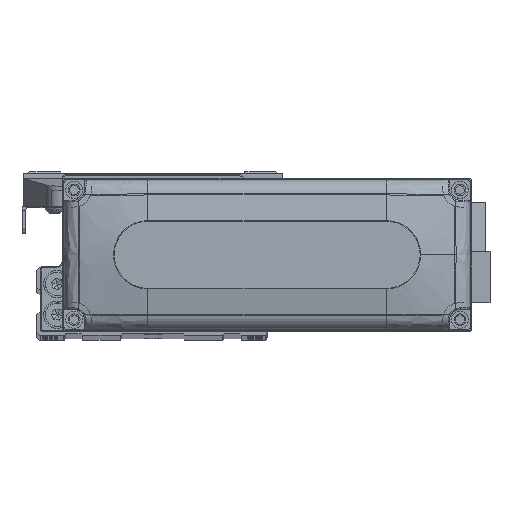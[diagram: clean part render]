
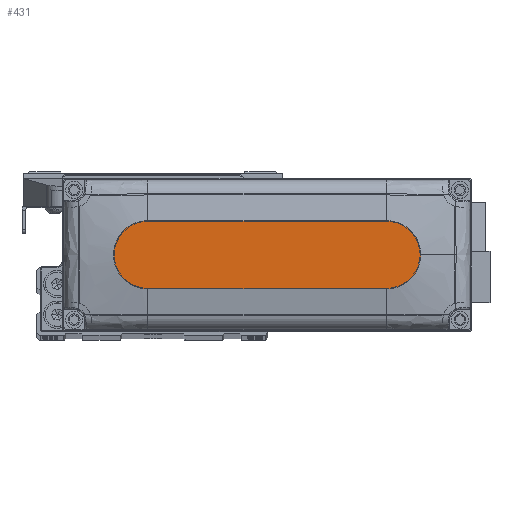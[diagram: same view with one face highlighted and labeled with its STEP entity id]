
A CAD part, top view. The second image highlights one B-rep face of the part: STEP entity #431.
In plain terms, the highlighted planar face has unit normal (0, 0, 1).
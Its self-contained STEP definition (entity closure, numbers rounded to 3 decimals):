
#431 = ADVANCED_FACE ( 'NONE', ( #11150 ), #25464, .T. ) ;
#1543 = EDGE_CURVE ( 'NONE', #21581, #30172, #6209, .T. ) ;
#1549 = AXIS2_PLACEMENT_3D ( 'NONE', #14911, #29242, #43549 ) ;
#2999 = VERTEX_POINT ( 'NONE', #36889 ) ;
#4117 = CIRCLE ( 'NONE', #30386, 10. ) ;
#6209 = CIRCLE ( 'NONE', #32441, 10. ) ;
#7633 = DIRECTION ( 'NONE',  ( 0., 0., 1. ) ) ;
#8557 = CARTESIAN_POINT ( 'NONE',  ( -35., -10., 28. ) ) ;
#9118 = AXIS2_PLACEMENT_3D ( 'NONE', #39778, #7633, #21953 ) ;
#9145 = DIRECTION ( 'NONE',  ( 0., 0., 1. ) ) ;
#9793 = VECTOR ( 'NONE', #11163, 1000. ) ;
#9828 = ORIENTED_EDGE ( 'NONE', *, *, #1543, .T. ) ;
#11150 = FACE_OUTER_BOUND ( 'NONE', #43593, .T. ) ;
#11163 = DIRECTION ( 'NONE',  ( -1., 0., 0. ) ) ;
#11703 = EDGE_CURVE ( 'NONE', #30172, #30401, #29011, .T. ) ;
#11739 = EDGE_CURVE ( 'NONE', #30401, #32574, #21776, .T. ) ;
#14911 = CARTESIAN_POINT ( 'NONE',  ( -35., 0., 28. ) ) ;
#17005 = ORIENTED_EDGE ( 'NONE', *, *, #11703, .T. ) ;
#17364 = CARTESIAN_POINT ( 'NONE',  ( 35., 0., 28. ) ) ;
#17519 = CARTESIAN_POINT ( 'NONE',  ( -35., 10., 28. ) ) ;
#21581 = VERTEX_POINT ( 'NONE', #27673 ) ;
#21776 = CIRCLE ( 'NONE', #1549, 10. ) ;
#21953 = DIRECTION ( 'NONE',  ( 1., 0., 0. ) ) ;
#22874 = DIRECTION ( 'NONE',  ( 1., 0., 0. ) ) ;
#23476 = DIRECTION ( 'NONE',  ( 1., 0., 0. ) ) ;
#25464 = PLANE ( 'NONE',  #9118 ) ;
#26125 = ORIENTED_EDGE ( 'NONE', *, *, #36631, .T. ) ;
#27673 = CARTESIAN_POINT ( 'NONE',  ( 45., 0., 28. ) ) ;
#29011 = LINE ( 'NONE', #43318, #9793 ) ;
#29242 = DIRECTION ( 'NONE',  ( 0., 0., 1. ) ) ;
#30172 = VERTEX_POINT ( 'NONE', #40786 ) ;
#30386 = AXIS2_PLACEMENT_3D ( 'NONE', #17364, #31717, #46016 ) ;
#30401 = VERTEX_POINT ( 'NONE', #17519 ) ;
#31717 = DIRECTION ( 'NONE',  ( 0., 0., 1. ) ) ;
#32441 = AXIS2_PLACEMENT_3D ( 'NONE', #41287, #9145, #23476 ) ;
#32574 = VERTEX_POINT ( 'NONE', #45825 ) ;
#36631 = EDGE_CURVE ( 'NONE', #32574, #2999, #40701, .T. ) ;
#36889 = CARTESIAN_POINT ( 'NONE',  ( 35., -10., 28. ) ) ;
#37745 = VECTOR ( 'NONE', #22874, 1000. ) ;
#39778 = CARTESIAN_POINT ( 'NONE',  ( 0., 0., 28. ) ) ;
#39951 = ORIENTED_EDGE ( 'NONE', *, *, #42645, .T. ) ;
#40701 = LINE ( 'NONE', #8557, #37745 ) ;
#40786 = CARTESIAN_POINT ( 'NONE',  ( 35., 10., 28. ) ) ;
#41287 = CARTESIAN_POINT ( 'NONE',  ( 35., 0., 28. ) ) ;
#42631 = ORIENTED_EDGE ( 'NONE', *, *, #11739, .T. ) ;
#42645 = EDGE_CURVE ( 'NONE', #2999, #21581, #4117, .T. ) ;
#43318 = CARTESIAN_POINT ( 'NONE',  ( -35., 10., 28. ) ) ;
#43549 = DIRECTION ( 'NONE',  ( 1., 0., 0. ) ) ;
#43593 = EDGE_LOOP ( 'NONE', ( #17005, #42631, #26125, #39951, #9828 ) ) ;
#45825 = CARTESIAN_POINT ( 'NONE',  ( -35., -10., 28. ) ) ;
#46016 = DIRECTION ( 'NONE',  ( 1., 0., 0. ) ) ;
